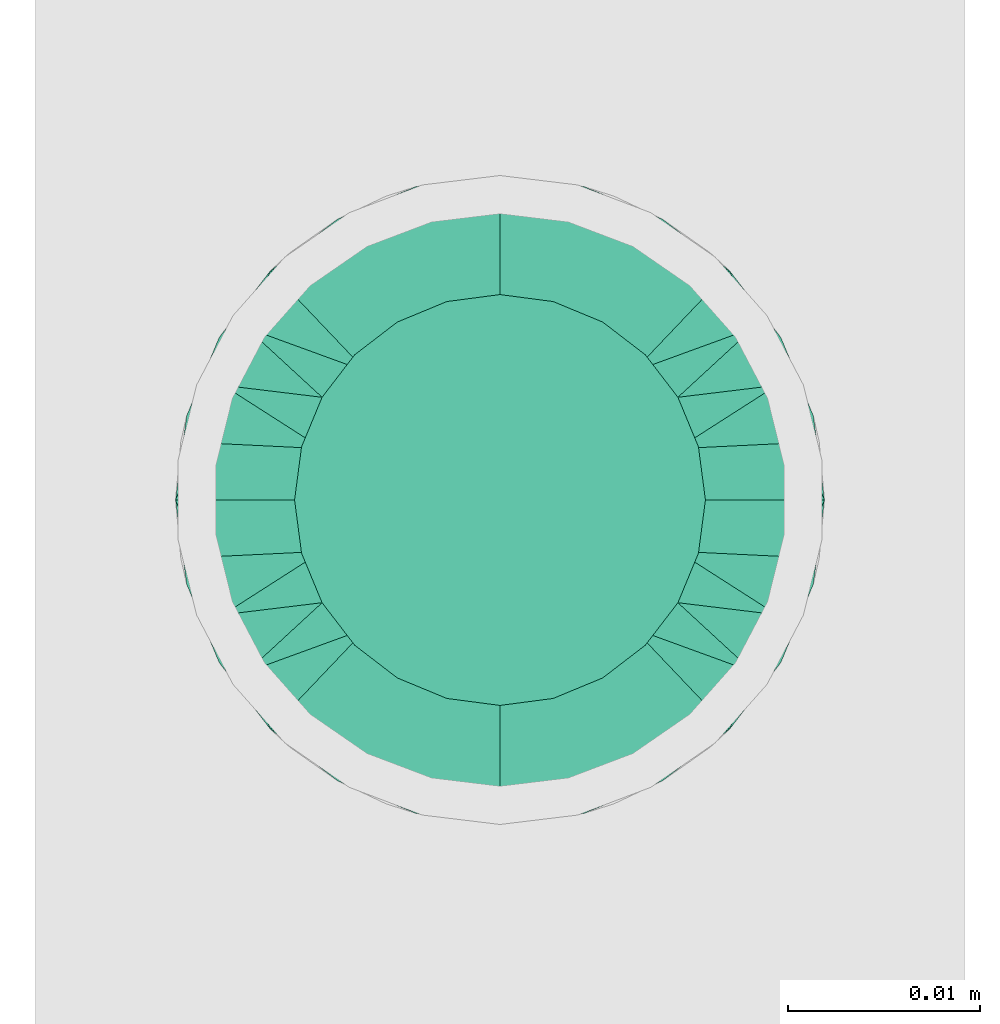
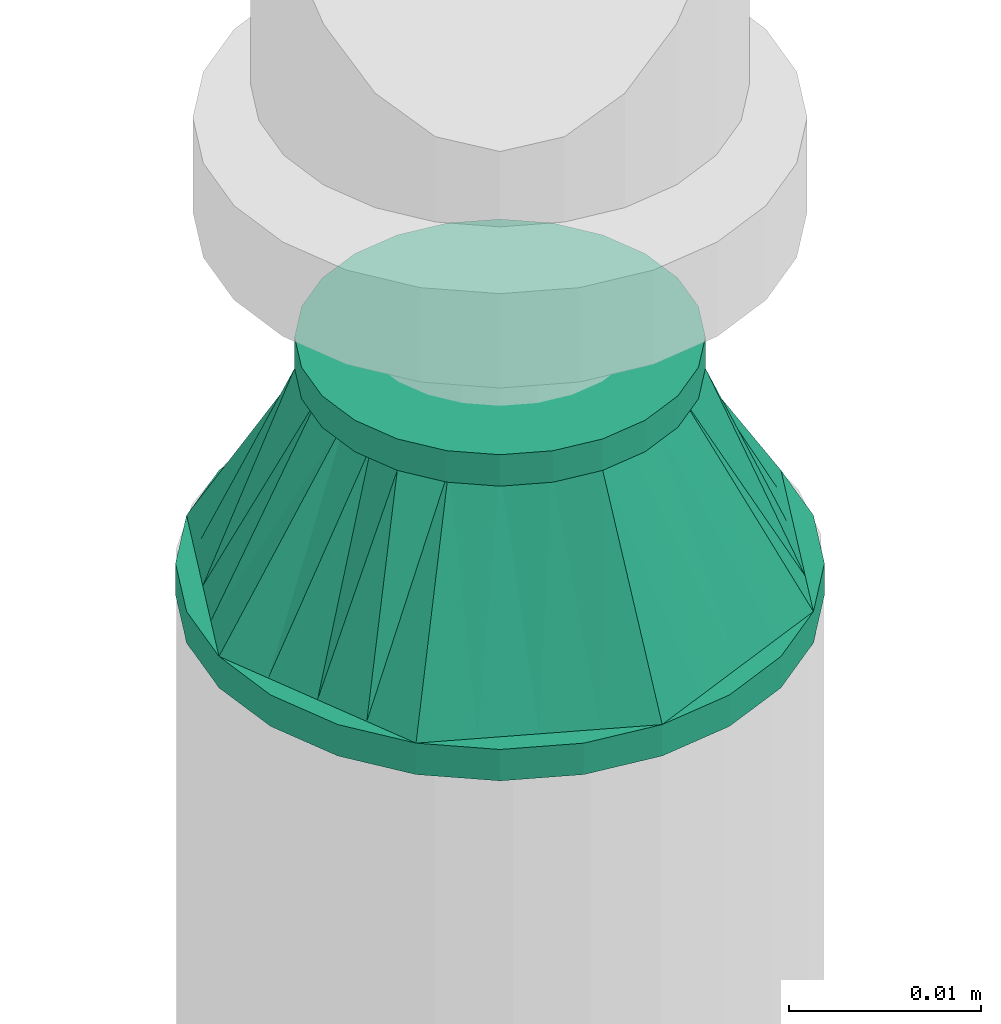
# One storey, part 31 of 63: 1 flow fitting.
"""IFC2X3 building model written with IfcOpenShell, lengths in millimetres."""

from ifc_helpers import new_model, entity, si_unit, converted_unit, derived_unit, direction, frame, origin_with_axes, place, context, subcontext, project, spatial, open_shell, surface_model, source, transform, mapped, type_object, element, save


model = new_model("IFC2X3")

# Units and contexts
model_context = context("Model", 3, precision=0.01, world=frame((0.0, 4.29681676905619e-09, 0.0)), true_north=direction((4.01073788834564e-13, 1.0)))
plan_context = context("Plan", 3, precision=0.01, world=frame((0.0, 4.29681676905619e-09, 0.0)), true_north=direction((4.01073788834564e-13, 1.0)))
body_context = subcontext(model_context, "Body", "Model", "MODEL_VIEW")
ifc_project = project(units=[converted_unit("PLANEANGLEUNIT", "DEGREE", entity("IfcPositiveLengthMeasure", 0.0174532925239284), si_unit("PLANEANGLEUNIT", "RADIAN"), dimensions=[0, 0, 0, 0, 0, 0, 0]), si_unit("AREAUNIT", "SQUARE_METRE"), si_unit("LENGTHUNIT", "METRE", prefix="MILLI"), si_unit("MASSUNIT", "GRAM", prefix="KILO"), si_unit("POWERUNIT", "WATT"), si_unit("PRESSUREUNIT", "PASCAL", prefix="KILO"), si_unit("FORCEUNIT", "NEWTON", prefix="KILO"), si_unit("ELECTRICVOLTAGEUNIT", "VOLT"), si_unit("ELECTRICCURRENTUNIT", "AMPERE"), si_unit("THERMODYNAMICTEMPERATUREUNIT", "DEGREE_CELSIUS"), si_unit("TIMEUNIT", "SECOND"), si_unit("VOLUMEUNIT", "CUBIC_METRE"), derived_unit("LINEARVELOCITYUNIT", [(si_unit("LENGTHUNIT", "METRE"), 1), (si_unit("TIMEUNIT", "SECOND"), -1)]), derived_unit("VOLUMETRICFLOWRATEUNIT", [(si_unit("VOLUMEUNIT", "CUBIC_METRE"), 1), (si_unit("TIMEUNIT", "SECOND"), -1)]), derived_unit("THERMALTRANSMITTANCEUNIT", [(si_unit("POWERUNIT", "WATT"), 1), (si_unit("THERMODYNAMICTEMPERATUREUNIT", "KELVIN"), -1), (si_unit("AREAUNIT", "SQUARE_METRE"), -1)]), derived_unit("SOUNDPRESSUREUNIT", [(si_unit("PRESSUREUNIT", "PASCAL"), 1)])], contexts=[model_context, plan_context])

# Site, building, storey
site_placement = place(None, frame((0.0, -4.29681676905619e-09, 0.0), z_axis=(0.0, 0.0, 1.0), x_axis=(1.0, 0.0, 0.0)))
site = spatial("IfcSite", under=ifc_project, at=site_placement, CompositionType="ELEMENT")
building_placement = place(site_placement, frame((0.0, 4.29681676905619e-09, 0.0), z_axis=(0.0, 0.0, 1.0), x_axis=(1.0, 0.0, 0.0)))
building = spatial("IfcBuilding", under=site, at=building_placement, Name="mc-building", CompositionType="ELEMENT")
storey_placement = place(building_placement, frame((0.0, 0.0, 207370.0), z_axis=(0.0, 0.0, 1.0), x_axis=(1.0, 0.0, 0.0)))
storey = spatial("IfcBuildingStorey", under=building, at=storey_placement, Name="Nivå E", CompositionType="ELEMENT", Elevation=207370.0)

# Flow fitting
pipe_fitting_type = type_object("IfcPipeFittingType", Name="magi_pipe_fe_reducer_centric_short_NOR", PredefinedType="TRANSITION")
shared_shape = source(origin_with_axes(), body_context, "Body", "SurfaceModel", [
    surface_model("IfcShellBasedSurfaceModel", [(14.4, 5.35, -9.26647), (14.4, 0.0, -10.7), (14.4, 2.76936, -10.33541), (14.4, 10.33541, -2.76936), (14.4, 7.56604, -7.56604), (14.4, -10.33541, -2.76936), (14.4, 9.26647, -5.35), (14.4, 0.0, 10.7), (14.4, -5.35, -9.26647), (14.4, -2.76936, -10.33541), (14.4, -7.56604, -7.56604), (14.4, -9.26647, -5.35), (14.4, 10.7, 0.0), (14.4, 10.33541, 2.76936), (14.4, 9.26647, 5.35), (14.4, 7.56604, 7.56604), (14.4, 2.76936, 10.33541), (14.4, 5.35, 9.26647), (14.4, -10.33541, 2.76936), (14.4, -7.56604, 7.56604), (14.4, -9.26647, 5.35), (14.4, -10.7, 0.0), (14.4, -2.76936, 10.33541), (14.4, -5.35, 9.26647), (12.4, 2.76936, 10.33541), (12.4, -10.33541, -2.76936), (12.4, 0.0, 10.7), (12.4, 5.35, 9.26647), (12.4, 7.56604, 7.56604), (12.4, 9.26647, 5.35), (12.4, 10.33541, 2.76936), (12.4, -10.33541, 2.76936), (12.4, -2.76936, 10.33541), (12.4, -7.56604, 7.56604), (12.4, -5.35, 9.26647), (12.4, -9.26647, 5.35), (12.4, -10.7, 0.0), (12.4, 10.33541, -2.76936), (12.4, 5.35, -9.26647), (12.4, 9.26647, -5.35), (12.4, 7.56604, -7.56604), (12.4, 2.76936, -10.33541), (12.4, -9.26647, -5.35), (12.4, -5.35, -9.26647), (12.4, -7.56604, -7.56604), (12.4, 0.0, -10.7), (12.4, -2.76936, -10.33541), (12.4, 10.7, 0.0), (-2.0, 11.9501, 11.9501), (-2.0, 0.0, 16.9), (-2.0, 4.37404, 16.32415), (-2.0, 8.45, 14.63583), (-2.0, 14.63583, 8.45), (-2.0, 16.32415, 4.37404), (-2.0, -16.32415, 4.37404), (-2.0, -8.45, 14.63583), (-2.0, -14.63583, 8.45), (-2.0, -11.9501, 11.9501), (-2.0, -4.37404, 16.32415), (-2.0, -16.32415, -4.37404), (-2.0, -16.9, 0.0), (-2.0, -8.45, -14.63583), (-2.0, 16.32415, -4.37404), (-2.0, 11.9501, -11.9501), (-2.0, 14.63583, -8.45), (-2.0, 8.45, -14.63583), (-2.0, 4.37404, -16.32415), (-2.0, 0.0, -16.9), (-2.0, -11.9501, -11.9501), (-2.0, -14.63583, -8.45), (-2.0, -4.37404, -16.32415), (-2.0, 16.9, 0.0), (0.0, 4.37404, -16.32415), (0.0, 8.45, -14.63583), (0.0, 11.9501, -11.9501), (0.0, 0.0, -16.9), (0.0, 16.32415, -4.37404), (0.0, 16.32415, 4.37404), (0.0, 14.63583, -8.45), (0.0, -8.45, -14.63583), (0.0, -4.37404, -16.32415), (0.0, -11.9501, -11.9501), (0.0, -16.32415, -4.37404), (0.0, -14.63583, -8.45), (0.0, -16.32415, 4.37404), (0.0, 16.9, 0.0), (0.0, 14.63583, 8.45), (0.0, 11.9501, 11.9501), (0.0, 4.37404, 16.32415), (0.0, 8.45, 14.63583), (0.0, 0.0, 16.9), (0.0, -14.63583, 8.45), (0.0, -16.9, 0.0), (0.0, -8.45, 14.63583), (0.0, -11.9501, 11.9501), (0.0, -4.37404, 16.32415), (12.4, 9.3625, -2.31662), (0.0, 14.42505, -5.97505), (0.0, 15.66253, -2.98753), (12.4, -6.6875, -6.94985), (0.0, -13.18758, -8.96258), (0.0, 2.98753, -15.66253), (12.4, 0.0, -9.26647), (12.4, 6.6875, -6.94985), (0.0, 8.96258, -13.18758), (12.4, -9.3625, -2.31662), (0.0, -15.66253, -2.98753), (0.0, -14.42505, -5.97505), (0.0, 5.97505, -14.42505), (0.0, -2.98753, -15.66253), (0.0, -8.96258, -13.18758), (0.0, 13.18758, -8.96258), (12.4, 8.025, -4.63324), (12.4, -2.675, -9.26647), (12.4, 2.675, -9.26647), (0.0, -5.97505, -14.42505), (12.4, -8.025, -4.63324), (12.4, -9.3625, 2.31662), (0.0, -14.42505, 5.97505), (0.0, -15.66253, 2.98753), (12.4, 6.6875, 6.94985), (0.0, 13.18758, 8.96258), (0.0, -2.98753, 15.66253), (12.4, 0.0, 9.26647), (12.4, -6.6875, 6.94985), (0.0, -8.96258, 13.18758), (12.4, 9.3625, 2.31662), (0.0, 15.66253, 2.98753), (0.0, 14.42505, 5.97505), (0.0, -5.97505, 14.42505), (0.0, 2.98753, 15.66253), (0.0, 8.96258, 13.18758), (0.0, -13.18758, 8.96258), (12.4, -8.025, 4.63324), (12.4, 2.675, 9.26647), (12.4, -2.675, 9.26647), (0.0, 5.97505, 14.42505), (12.4, 8.025, 4.63324)], [open_shell([[[0, 1, 2]], [[3, 0, 4]], [[5, 0, 3]], [[3, 4, 6]], [[7, 5, 3]], [[1, 8, 9]], [[1, 0, 8]], [[10, 5, 11]], [[5, 10, 8]], [[0, 5, 8]], [[3, 12, 13]], [[13, 14, 15]], [[13, 15, 16]], [[7, 3, 16]], [[16, 15, 17]], [[7, 18, 5]], [[18, 19, 20]], [[21, 5, 18]], [[19, 22, 23]], [[22, 19, 18]], [[7, 22, 18]], [[13, 16, 3]], [[24, 25, 26]], [[27, 25, 24]], [[28, 29, 30]], [[28, 25, 27]], [[31, 26, 25]], [[32, 33, 34]], [[33, 32, 31]], [[33, 31, 35]], [[32, 26, 31]], [[31, 25, 36]], [[30, 37, 28]], [[25, 28, 37]], [[38, 37, 39]], [[37, 38, 25]], [[38, 39, 40]], [[41, 25, 38]], [[42, 43, 44]], [[43, 42, 25]], [[43, 45, 46]], [[43, 25, 41]], [[41, 45, 43]], [[37, 30, 47]], [[25, 5, 36]], [[42, 11, 25]], [[8, 44, 43]], [[42, 44, 10]], [[9, 43, 46]], [[25, 11, 5]], [[5, 21, 36]], [[9, 8, 43]], [[10, 44, 8]], [[10, 11, 42]], [[1, 9, 46]], [[46, 45, 1]], [[41, 2, 45]], [[38, 0, 41]], [[6, 40, 39]], [[38, 40, 4]], [[3, 39, 37]], [[38, 4, 0]], [[0, 2, 41]], [[12, 3, 37]], [[6, 39, 3]], [[6, 4, 40]], [[47, 12, 37]], [[45, 2, 1]], [[30, 13, 47]], [[29, 14, 30]], [[17, 28, 27]], [[29, 28, 15]], [[16, 27, 24]], [[30, 14, 13]], [[13, 12, 47]], [[16, 17, 27]], [[15, 28, 17]], [[15, 14, 29]], [[7, 16, 24]], [[24, 26, 7]], [[32, 22, 26]], [[34, 23, 32]], [[20, 33, 35]], [[34, 33, 19]], [[18, 35, 31]], [[34, 19, 23]], [[23, 22, 32]], [[21, 18, 31]], [[20, 35, 18]], [[20, 19, 33]], [[36, 21, 31]], [[26, 22, 7]], [[48, 49, 50]], [[48, 50, 51]], [[48, 52, 53]], [[48, 53, 49]], [[49, 53, 54]], [[55, 56, 57]], [[55, 58, 49]], [[56, 55, 49]], [[49, 54, 56]], [[54, 59, 60]], [[54, 53, 61]], [[53, 62, 63]], [[63, 62, 64]], [[63, 65, 66]], [[61, 53, 63]], [[67, 63, 66]], [[59, 68, 69]], [[68, 59, 61]], [[61, 67, 70]], [[59, 54, 61]], [[63, 67, 61]], [[53, 71, 62]], [[72, 73, 74]], [[75, 72, 74]], [[74, 76, 77]], [[76, 74, 78]], [[74, 77, 79]], [[75, 79, 80]], [[75, 74, 79]], [[81, 82, 83]], [[82, 81, 79]], [[79, 84, 82]], [[77, 76, 85]], [[77, 86, 87]], [[77, 87, 88]], [[88, 84, 79]], [[88, 87, 89]], [[84, 88, 90]], [[90, 91, 84]], [[92, 82, 84]], [[91, 93, 94]], [[91, 90, 93]], [[93, 90, 95]], [[79, 77, 88]], [[59, 82, 60]], [[69, 83, 59]], [[79, 68, 61]], [[69, 68, 81]], [[80, 61, 70]], [[59, 83, 82]], [[82, 92, 60]], [[80, 79, 61]], [[81, 68, 79]], [[81, 83, 69]], [[75, 80, 70]], [[70, 67, 75]], [[66, 72, 67]], [[65, 73, 66]], [[78, 63, 64]], [[65, 63, 74]], [[76, 64, 62]], [[65, 74, 73]], [[73, 72, 66]], [[85, 76, 62]], [[78, 64, 76]], [[78, 74, 63]], [[71, 85, 62]], [[67, 72, 75]], [[53, 77, 71]], [[52, 86, 53]], [[89, 48, 51]], [[52, 48, 87]], [[88, 51, 50]], [[53, 86, 77]], [[77, 85, 71]], [[88, 89, 51]], [[87, 48, 89]], [[87, 86, 52]], [[90, 88, 50]], [[50, 49, 90]], [[58, 95, 49]], [[55, 93, 58]], [[91, 57, 56]], [[55, 57, 94]], [[84, 56, 54]], [[55, 94, 93]], [[93, 95, 58]], [[92, 84, 54]], [[91, 56, 84]], [[91, 94, 57]], [[60, 92, 54]], [[49, 95, 90]], [[27, 34, 47]], [[47, 34, 43]], [[43, 38, 47]], [[43, 34, 36]], [[90, 87, 94]], [[92, 94, 87]], [[87, 74, 92]], [[75, 92, 74]], [[81, 92, 75]], [[74, 87, 85]], [[96, 97, 98]], [[81, 99, 100]], [[101, 102, 75]], [[98, 85, 47]], [[74, 103, 104]], [[104, 103, 38]], [[105, 106, 107]], [[38, 108, 104]], [[102, 109, 75]], [[110, 99, 81]], [[47, 96, 98]], [[103, 111, 112]], [[109, 102, 113]], [[36, 92, 106]], [[102, 101, 114]], [[110, 115, 43]], [[96, 112, 97]], [[107, 116, 105]], [[36, 106, 105]], [[113, 115, 109]], [[43, 115, 113]], [[116, 107, 100]], [[108, 38, 114]], [[111, 103, 74]], [[111, 97, 112]], [[99, 110, 43]], [[116, 100, 99]], [[101, 108, 114]], [[117, 118, 119]], [[87, 120, 121]], [[122, 123, 90]], [[119, 92, 36]], [[94, 124, 125]], [[125, 124, 34]], [[126, 127, 128]], [[34, 129, 125]], [[123, 130, 90]], [[131, 120, 87]], [[36, 117, 119]], [[124, 132, 133]], [[130, 123, 134]], [[47, 85, 127]], [[123, 122, 135]], [[131, 136, 27]], [[117, 133, 118]], [[128, 137, 126]], [[47, 127, 126]], [[134, 136, 130]], [[27, 136, 134]], [[137, 128, 121]], [[129, 34, 135]], [[132, 124, 94]], [[132, 118, 133]], [[120, 131, 27]], [[137, 121, 120]], [[122, 129, 135]]])]),
])
flow_fitting_placement = place(storey_placement, frame((719641.29045, 439411.81651, 3018.36794), z_axis=(1.0, 0.0, 0.0), x_axis=(0.0, 0.0, 1.0)))
element("IfcFlowFitting", 1, at=flow_fitting_placement, inside=storey, type_object=pipe_fitting_type, Name="magi_pipe_fe_reducer_centric_short_NOR", context=body_context, shape_type="MappedRepresentation", body=[
    mapped(shared_shape, transform((0.0, 0.0, 0.0), scale=1.0)),
])

save(model, "model.ifc")
